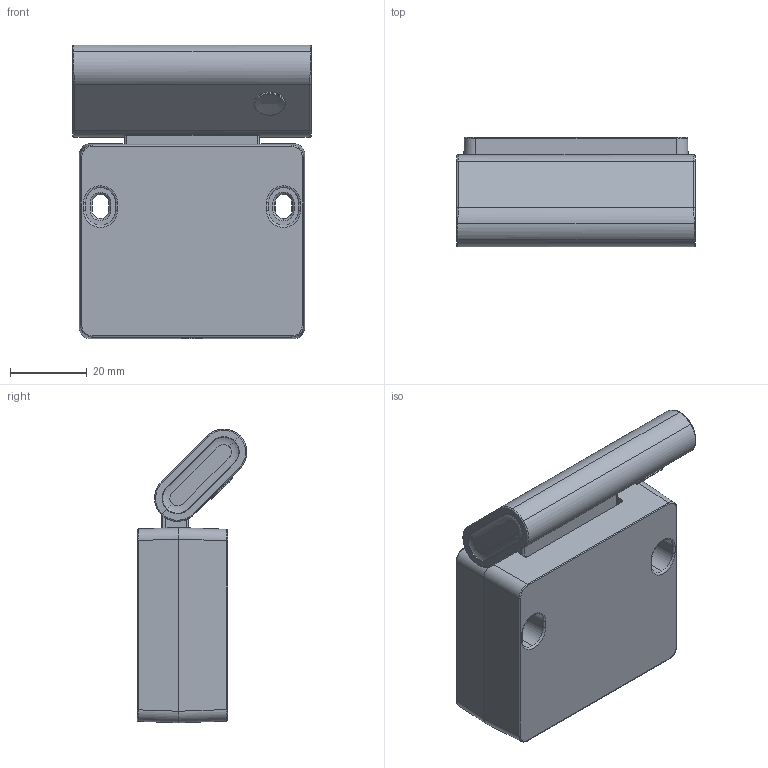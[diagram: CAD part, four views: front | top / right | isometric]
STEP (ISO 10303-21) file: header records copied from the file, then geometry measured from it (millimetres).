
FILE_DESCRIPTION (( 'STEP AP203' ), '1' );
FILE_NAME ('3D_TDH24P.STEP', '2021-10-01T09:12:11', ( '' ), ( '' ), 'SwSTEP 2.0', 'SolidWorks 2015', '' );
FILE_SCHEMA (( 'CONFIG_CONTROL_DESIGN' ));
Length unit declared in the file: inch
Products named in the file (1): 3D_TDH24P
Bounding box: 62.14 x 28.5 x 76.43 mm (x, y, z)
Volume: 34525.6 mm3; surface area: 41110 mm2
Topology: 13 solids, 13 shells, 1801 faces, 4892 edges, 3171 vertices
Faces by surface type: plane 893, cylinder 663, cone 102, bspline 60, torus 59, sphere 24
Entity records: 66559 total; most frequent: CARTESIAN_POINT 21643, ORIENTED_EDGE 9780, DIRECTION 9052, EDGE_CURVE 4890, VERTEX_POINT 3171, AXIS2_PLACEMENT_3D 3034, LINE 2984, VECTOR 2984
